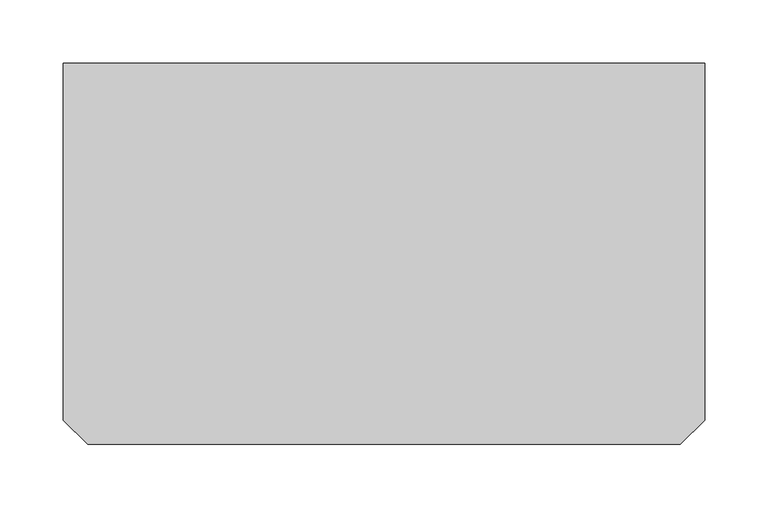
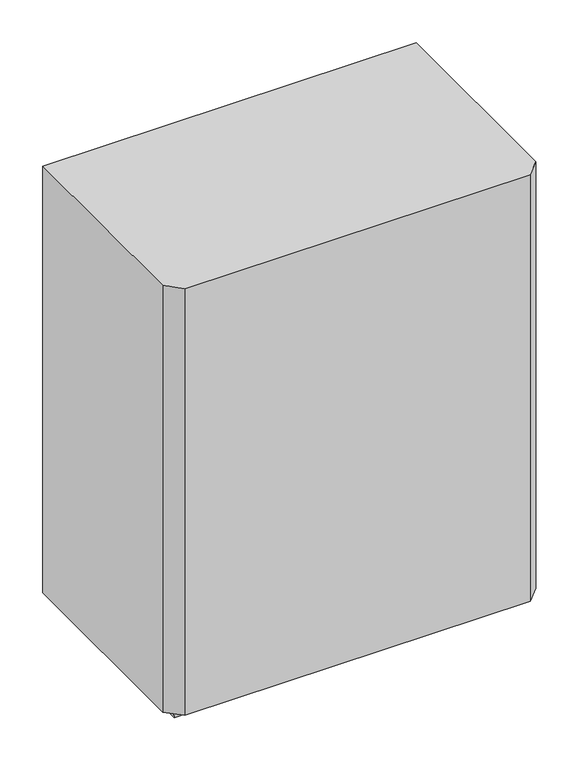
"""IFC4 building model written with IfcOpenShell, lengths in millimetres: proxy geometry, COFFRET BATTERIE ABM 1P : COFFRET BATTERIE ABM 1P."""

from ifc_helpers import new_model, si_unit, frame, origin, place, context, project, spatial, polyline, outline, extrude, faceted_brep, source, transform, mapped, element, save


def electrical_equipment_40986e62(model_context):
    return source(origin(), model_context, "Body", "SolidModel", [
        faceted_brep([(-223.8224524, -56.3224524, 0.0), (-223.8224524, -73.6775476, 0.0), (-241.1775476, -73.6775476, 0.0), (-241.1775476, -56.3224524, 0.0), (-222.5, -55.0, 7.5), (-242.5, -55.0, 7.5), (-242.5, -75.0, 7.5), (-222.5, -75.0, 7.5)], [[[0, 1, 2, 3]], [[4, 5, 6, 7]], [[5, 4, 0, 3]], [[6, 5, 3, 2]], [[7, 6, 2, 1]], [[4, 7, 1, 0]]]),
        faceted_brep([(241.1775476, -56.3224524, 0.0), (241.1775476, -73.6775476, 0.0), (223.8224524, -73.6775476, 0.0), (223.8224524, -56.3224524, 0.0), (242.5, -55.0, 7.5), (222.5, -55.0, 7.5), (222.5, -75.0, 7.5), (242.5, -75.0, 7.5)], [[[0, 1, 2, 3]], [[4, 5, 6, 7]], [[5, 4, 0, 3]], [[6, 5, 3, 2]], [[7, 6, 2, 1]], [[4, 7, 1, 0]]]),
        faceted_brep([(241.1775476, 203.6775476, 0.0), (241.1775476, 186.3224524, 0.0), (223.8224524, 186.3224524, 0.0), (223.8224524, 203.6775476, 0.0), (242.5, 205.0, 7.5), (222.5, 205.0, 7.5), (222.5, 185.0, 7.5), (242.5, 185.0, 7.5)], [[[0, 1, 2, 3]], [[4, 5, 6, 7]], [[5, 4, 0, 3]], [[6, 5, 3, 2]], [[7, 6, 2, 1]], [[4, 7, 1, 0]]]),
        faceted_brep([(-223.8224524, 203.6775476, 0.0), (-223.8224524, 186.3224524, 0.0), (-241.1775476, 186.3224524, 0.0), (-241.1775476, 203.6775476, 0.0), (-222.5, 205.0, 7.5), (-242.5, 205.0, 7.5), (-242.5, 185.0, 7.5), (-222.5, 185.0, 7.5)], [[[0, 1, 2, 3]], [[4, 5, 6, 7]], [[5, 4, 0, 3]], [[6, 5, 3, 2]], [[7, 6, 2, 1]], [[4, 7, 1, 0]]]),
        extrude(outline(polyline([(252.5, 215.0), (252.5, -66.0), (233.5, -85.0), (-233.5, -85.0), (-252.5, -66.0), (-252.5, 215.0), (252.5, 215.0)])), frame((0.0, 0.0, 7.5), z_axis=(0.0, 0.0, 1.0), x_axis=(1.0, 0.0, 0.0)), (0.0, 0.0, 1.0), 610.0),
    ])


if __name__ == "__main__":
    model = new_model("IFC4")
    model_context = context("Model", 3, world=origin())
    ifc_project = project(units=[si_unit("LENGTHUNIT", "METRE", prefix="MILLI")], contexts=[model_context])
    site = spatial("IfcSite", under=ifc_project)
    building = spatial("IfcBuilding", under=site)
    placement = place(None, origin())
    electrical_equipment_shape = electrical_equipment_40986e62(model_context)
    element("IfcBuildingElementProxy", 1, Name="COFFRET BATTERIE ABM 1P : COFFRET BATTERIE ABM 1P", ObjectType="COFFRET BATTERIE ABM 1P : COFFRET BATTERIE ABM 1P", at=placement, inside=building, context=model_context, shape_type="MappedRepresentation", body=[
        mapped(electrical_equipment_shape, transform((0.0, 0.0, 0.0), x_axis=(1.0, 0.0, 0.0), y_axis=(0.0, 1.0, 0.0), z_axis=(0.0, 0.0, 1.0))),
    ])
    save(model, "model.ifc")
